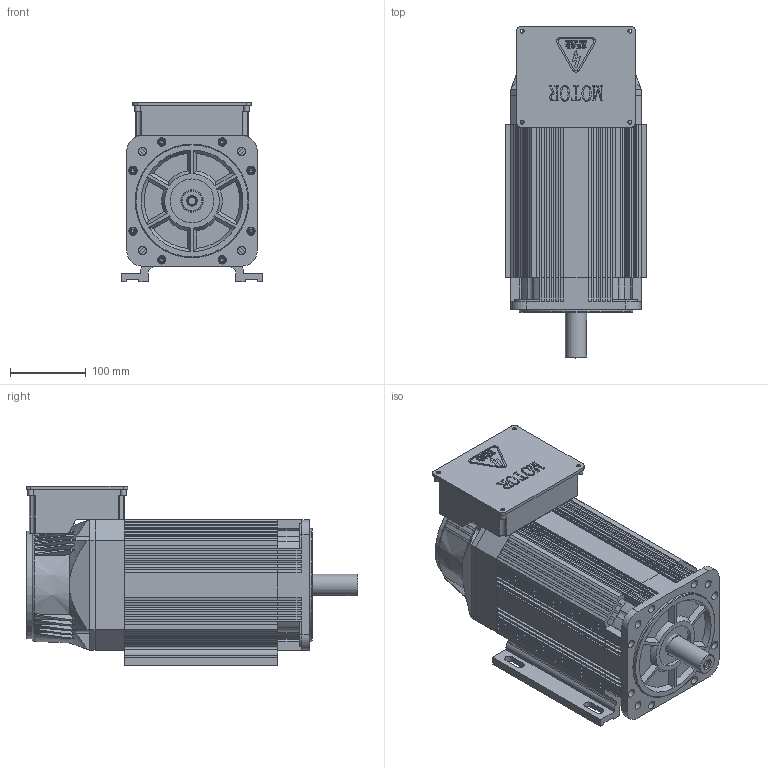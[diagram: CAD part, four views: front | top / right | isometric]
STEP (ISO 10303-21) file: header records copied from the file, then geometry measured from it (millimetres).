
FILE_DESCRIPTION(/* description */ (''),/* implementation_level */ '2;1');
FILE_NAME(/* name */ '172ZJY-4-5.5-15(加脚).stp',/* time_stamp */ '2024-01-15T11:09:23+08:00',/* author */ (''),/* organization */ (''),/* preprocessor_version */ 'ST-DEVELOPER v18.1',/* originating_system */ 'SIEMENS PLM Software NX 2000',/* authorisation */ '');
FILE_SCHEMA (('AUTOMOTIVE_DESIGN { 1 0 10303 214 3 1 1 1 }'));
Products named in the file (1): 172主轴伺服电机 加脚
Bounding box: 186 x 438 x 237.5 mm (x, y, z)
Volume: 8744668 mm3; surface area: 892911.2 mm2
Topology: 15 solids, 15 shells, 2305 faces, 6318 edges, 4159 vertices
Faces by surface type: plane 1346, extrusion 442, cylinder 392, cone 108, torus 17
Full cylindrical faces by diameter (mm): 4.5 x4, 5 x8, 5.3 x8, 5.795 x8, 6 x4, 7 x8, 8 x4, 10 x9, 11 x12, 12 x2, 26 x1, 28 x1, 30 x1, 58 x1, 137 x1, 150 x1
Entity records: 77775 total; most frequent: CARTESIAN_POINT 22140, ORIENTED_EDGE 12300, DIRECTION 9602, EDGE_CURVE 6150, VERTEX_POINT 4114, VECTOR 3798, LINE 3356, AXIS2_PLACEMENT_3D 2902
